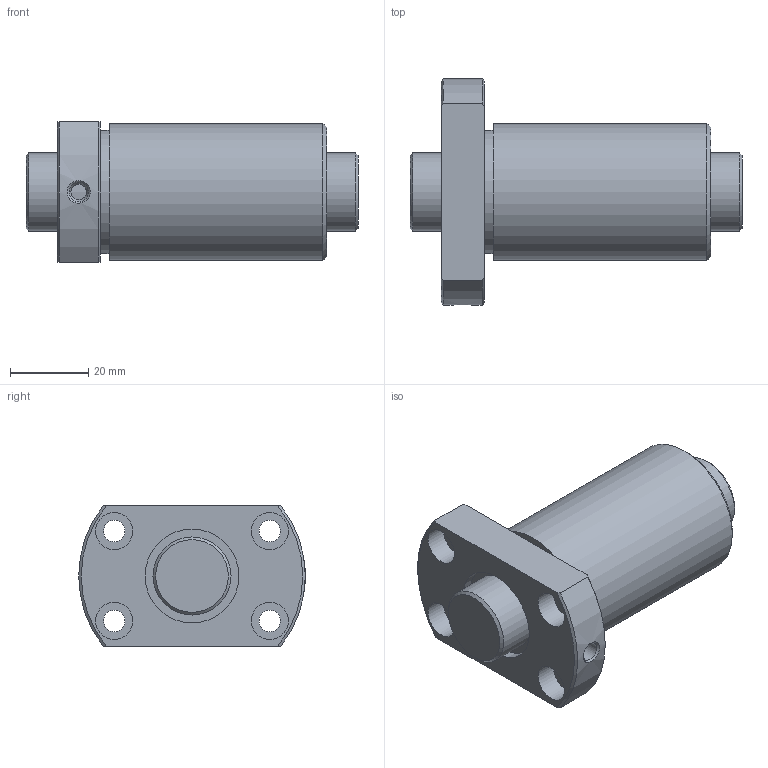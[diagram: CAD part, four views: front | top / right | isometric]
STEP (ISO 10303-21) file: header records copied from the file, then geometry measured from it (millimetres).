
FILE_DESCRIPTION(/* description */ ('STEP AP203'),/* implementation_level */ '2;1');
FILE_NAME(/* name */ 'DK2008-4RRG1+85LC0_000',/* time_stamp */ '2025-01-13T09:09:27+01:00',/* author */ ('License CC BY-ND 4.0'),/* organization */ ('CADENAS'),/* preprocessor_version */ 'ST-DEVELOPER v19.3',/* originating_system */ 'PARTsolutions',/* authorisation */ ' ');
FILE_SCHEMA (('CONFIG_CONTROL_DESIGN'));
Length unit declared in the file: millimetre
Products named in the file (3): DK2008-4RRG1+85LC0_000; DK 2008-4RR08500 Shaft; DK 2008-4RR0Nut
Assembly tree (2 placements, depth 2):
  DK2008-4RRG1+85LC0_000
    DK 2008-4RR08500 Shaft
    DK 2008-4RR0Nut
Bounding box: 85 x 58 x 36 mm (x, y, z)
Volume: 78611.5 mm3; surface area: 23102.1 mm2
Topology: 2 solids, 2 shells, 41 faces, 83 edges, 54 vertices
Faces by surface type: cylinder 18, plane 14, cone 9
Full cylindrical faces by diameter (mm): 4 x1, 4.917 x1, 5.5 x4, 9.5 x4, 20 x2, 24 x2, 31.5 x1, 35 x1
Entity records: 1087 total; most frequent: CARTESIAN_POINT 200, DIRECTION 180, ORIENTED_EDGE 120, AXIS2_PLACEMENT_3D 86, EDGE_LOOP 82, FACE_BOUND 82, EDGE_CURVE 60, VERTEX_POINT 52
